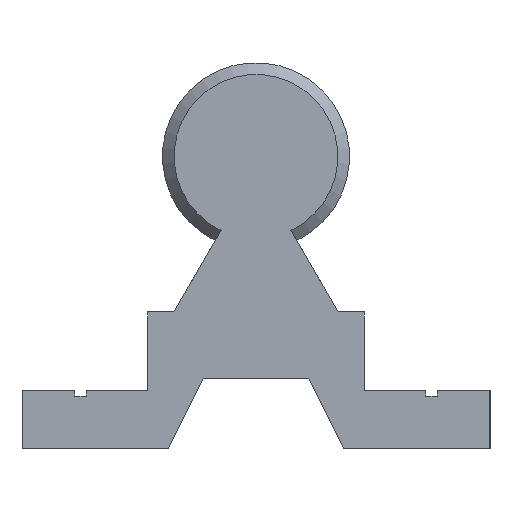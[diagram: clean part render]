
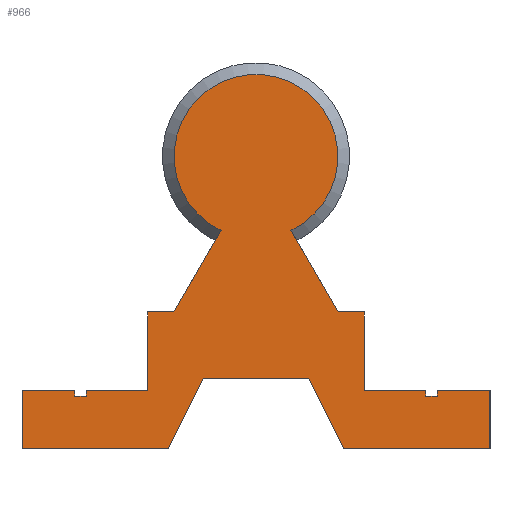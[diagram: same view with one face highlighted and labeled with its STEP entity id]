
A CAD part, left-side view. The second image highlights one B-rep face of the part: STEP entity #966.
In plain terms, the highlighted planar face has unit normal (-1, 0, 0).
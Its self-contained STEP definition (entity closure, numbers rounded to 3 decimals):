
#24=LINE('',#1421,#114);
#25=LINE('',#1423,#115);
#26=LINE('',#1425,#116);
#27=LINE('',#1427,#117);
#28=LINE('',#1429,#118);
#29=LINE('',#1431,#119);
#30=LINE('',#1433,#120);
#31=LINE('',#1435,#121);
#32=LINE('',#1437,#122);
#33=LINE('',#1439,#123);
#34=LINE('',#1441,#124);
#35=LINE('',#1443,#125);
#36=LINE('',#1445,#126);
#37=LINE('',#1447,#127);
#38=LINE('',#1449,#128);
#39=LINE('',#1451,#129);
#40=LINE('',#1453,#130);
#41=LINE('',#1455,#131);
#42=LINE('',#1457,#132);
#43=LINE('',#1459,#133);
#44=LINE('',#1461,#134);
#45=LINE('',#1463,#135);
#46=LINE('',#1464,#136);
#114=VECTOR('',#1139,10.);
#115=VECTOR('',#1140,10.);
#116=VECTOR('',#1141,10.);
#117=VECTOR('',#1142,10.);
#118=VECTOR('',#1143,10.);
#119=VECTOR('',#1144,10.);
#120=VECTOR('',#1145,10.);
#121=VECTOR('',#1146,10.);
#122=VECTOR('',#1147,10.);
#123=VECTOR('',#1148,10.);
#124=VECTOR('',#1149,10.);
#125=VECTOR('',#1150,10.);
#126=VECTOR('',#1151,10.);
#127=VECTOR('',#1152,10.);
#128=VECTOR('',#1153,10.);
#129=VECTOR('',#1154,10.);
#130=VECTOR('',#1155,10.);
#131=VECTOR('',#1156,10.);
#132=VECTOR('',#1157,10.);
#133=VECTOR('',#1158,10.);
#134=VECTOR('',#1159,10.);
#135=VECTOR('',#1160,10.);
#136=VECTOR('',#1161,10.);
#204=PLANE('',#1040);
#242=FACE_OUTER_BOUND('',#294,.T.);
#294=EDGE_LOOP('',(#659,#660,#661,#662,#663,#664,#665,#666,#667,#668,#669,
#670,#671,#672,#673,#674,#675,#676,#677,#678,#679,#680,#681,#682));
#349=CIRCLE('',#1038,7.);
#410=VERTEX_POINT('',#1408);
#411=VERTEX_POINT('',#1412);
#413=VERTEX_POINT('',#1420);
#414=VERTEX_POINT('',#1422);
#415=VERTEX_POINT('',#1424);
#416=VERTEX_POINT('',#1426);
#417=VERTEX_POINT('',#1428);
#418=VERTEX_POINT('',#1430);
#419=VERTEX_POINT('',#1432);
#420=VERTEX_POINT('',#1434);
#421=VERTEX_POINT('',#1436);
#422=VERTEX_POINT('',#1438);
#423=VERTEX_POINT('',#1440);
#424=VERTEX_POINT('',#1442);
#425=VERTEX_POINT('',#1444);
#426=VERTEX_POINT('',#1446);
#427=VERTEX_POINT('',#1448);
#428=VERTEX_POINT('',#1450);
#429=VERTEX_POINT('',#1452);
#430=VERTEX_POINT('',#1454);
#431=VERTEX_POINT('',#1456);
#432=VERTEX_POINT('',#1458);
#433=VERTEX_POINT('',#1460);
#434=VERTEX_POINT('',#1462);
#506=EDGE_CURVE('',#410,#411,#349,.T.);
#509=EDGE_CURVE('',#411,#413,#24,.T.);
#510=EDGE_CURVE('',#414,#410,#25,.T.);
#511=EDGE_CURVE('',#415,#414,#26,.T.);
#512=EDGE_CURVE('',#416,#415,#27,.T.);
#513=EDGE_CURVE('',#417,#416,#28,.T.);
#514=EDGE_CURVE('',#418,#417,#29,.T.);
#515=EDGE_CURVE('',#419,#418,#30,.T.);
#516=EDGE_CURVE('',#420,#419,#31,.T.);
#517=EDGE_CURVE('',#421,#420,#32,.T.);
#518=EDGE_CURVE('',#422,#421,#33,.T.);
#519=EDGE_CURVE('',#423,#422,#34,.T.);
#520=EDGE_CURVE('',#424,#423,#35,.T.);
#521=EDGE_CURVE('',#425,#424,#36,.T.);
#522=EDGE_CURVE('',#426,#425,#37,.T.);
#523=EDGE_CURVE('',#427,#426,#38,.T.);
#524=EDGE_CURVE('',#428,#427,#39,.T.);
#525=EDGE_CURVE('',#429,#428,#40,.T.);
#526=EDGE_CURVE('',#430,#429,#41,.T.);
#527=EDGE_CURVE('',#431,#430,#42,.T.);
#528=EDGE_CURVE('',#432,#431,#43,.T.);
#529=EDGE_CURVE('',#433,#432,#44,.T.);
#530=EDGE_CURVE('',#434,#433,#45,.T.);
#531=EDGE_CURVE('',#413,#434,#46,.T.);
#659=ORIENTED_EDGE('',*,*,#509,.F.);
#660=ORIENTED_EDGE('',*,*,#506,.F.);
#661=ORIENTED_EDGE('',*,*,#510,.F.);
#662=ORIENTED_EDGE('',*,*,#511,.F.);
#663=ORIENTED_EDGE('',*,*,#512,.F.);
#664=ORIENTED_EDGE('',*,*,#513,.F.);
#665=ORIENTED_EDGE('',*,*,#514,.F.);
#666=ORIENTED_EDGE('',*,*,#515,.F.);
#667=ORIENTED_EDGE('',*,*,#516,.F.);
#668=ORIENTED_EDGE('',*,*,#517,.F.);
#669=ORIENTED_EDGE('',*,*,#518,.F.);
#670=ORIENTED_EDGE('',*,*,#519,.F.);
#671=ORIENTED_EDGE('',*,*,#520,.F.);
#672=ORIENTED_EDGE('',*,*,#521,.F.);
#673=ORIENTED_EDGE('',*,*,#522,.F.);
#674=ORIENTED_EDGE('',*,*,#523,.F.);
#675=ORIENTED_EDGE('',*,*,#524,.F.);
#676=ORIENTED_EDGE('',*,*,#525,.F.);
#677=ORIENTED_EDGE('',*,*,#526,.F.);
#678=ORIENTED_EDGE('',*,*,#527,.F.);
#679=ORIENTED_EDGE('',*,*,#528,.F.);
#680=ORIENTED_EDGE('',*,*,#529,.F.);
#681=ORIENTED_EDGE('',*,*,#530,.F.);
#682=ORIENTED_EDGE('',*,*,#531,.F.);
#966=ADVANCED_FACE('',(#242),#204,.F.);
#1038=AXIS2_PLACEMENT_3D('',#1413,#1133,#1134);
#1040=AXIS2_PLACEMENT_3D('',#1419,#1137,#1138);
#1133=DIRECTION('center_axis',(1.,0.,0.));
#1134=DIRECTION('ref_axis',(0.,1.,0.));
#1137=DIRECTION('center_axis',(1.,0.,0.));
#1138=DIRECTION('ref_axis',(0.,0.,-1.));
#1139=DIRECTION('',(0.,-0.5,-0.866));
#1140=DIRECTION('',(0.,-0.5,0.866));
#1141=DIRECTION('',(0.,-1.,0.));
#1142=DIRECTION('',(0.,0.,1.));
#1143=DIRECTION('',(0.,-1.,0.));
#1144=DIRECTION('',(0.,0.,1.));
#1145=DIRECTION('',(0.,-1.,0.));
#1146=DIRECTION('',(0.,0.,-1.));
#1147=DIRECTION('',(0.,-1.,0.));
#1148=DIRECTION('',(0.,0.,1.));
#1149=DIRECTION('',(0.,1.,0.));
#1150=DIRECTION('',(0.,0.447,-0.894));
#1151=DIRECTION('',(0.,1.,0.));
#1152=DIRECTION('',(0.,0.447,0.894));
#1153=DIRECTION('',(0.,1.,0.));
#1154=DIRECTION('',(0.,0.,-1.));
#1155=DIRECTION('',(0.,-1.,0.));
#1156=DIRECTION('',(0.,0.,1.));
#1157=DIRECTION('',(0.,-1.,0.));
#1158=DIRECTION('',(0.,0.,-1.));
#1159=DIRECTION('',(0.,-1.,0.));
#1160=DIRECTION('',(0.,0.,-1.));
#1161=DIRECTION('',(0.,-1.,0.));
#1408=CARTESIAN_POINT('',(0.,2.986,18.669));
#1412=CARTESIAN_POINT('',(0.,-2.986,18.669));
#1413=CARTESIAN_POINT('Origin',(0.,0.,25.));
#1419=CARTESIAN_POINT('Origin',(0.,0.,25.));
#1420=CARTESIAN_POINT('',(0.,-7.009,11.7));
#1421=CARTESIAN_POINT('',(0.,-1.492,21.255));
#1422=CARTESIAN_POINT('',(0.,7.009,11.7));
#1423=CARTESIAN_POINT('',(0.,3.253,18.205));
#1424=CARTESIAN_POINT('',(0.,9.25,11.7));
#1425=CARTESIAN_POINT('',(0.,9.25,11.7));
#1426=CARTESIAN_POINT('',(0.,9.25,5.));
#1427=CARTESIAN_POINT('',(0.,9.25,5.));
#1428=CARTESIAN_POINT('',(0.,14.5,5.));
#1429=CARTESIAN_POINT('',(0.,14.5,5.));
#1430=CARTESIAN_POINT('',(0.,14.5,4.5));
#1431=CARTESIAN_POINT('',(0.,14.5,4.5));
#1432=CARTESIAN_POINT('',(0.,15.5,4.5));
#1433=CARTESIAN_POINT('',(0.,15.5,4.5));
#1434=CARTESIAN_POINT('',(0.,15.5,5.));
#1435=CARTESIAN_POINT('',(0.,15.5,5.));
#1436=CARTESIAN_POINT('',(0.,20.,5.));
#1437=CARTESIAN_POINT('',(0.,20.,5.));
#1438=CARTESIAN_POINT('',(0.,20.,0.));
#1439=CARTESIAN_POINT('',(0.,20.,0.));
#1440=CARTESIAN_POINT('',(0.,7.5,0.));
#1441=CARTESIAN_POINT('',(0.,7.5,0.));
#1442=CARTESIAN_POINT('',(0.,4.5,6.));
#1443=CARTESIAN_POINT('',(0.,4.5,6.));
#1444=CARTESIAN_POINT('',(0.,-4.5,6.));
#1445=CARTESIAN_POINT('',(0.,-4.5,6.));
#1446=CARTESIAN_POINT('',(0.,-7.5,0.));
#1447=CARTESIAN_POINT('',(0.,-7.5,0.));
#1448=CARTESIAN_POINT('',(0.,-20.,0.));
#1449=CARTESIAN_POINT('',(0.,-20.,0.));
#1450=CARTESIAN_POINT('',(0.,-20.,5.));
#1451=CARTESIAN_POINT('',(0.,-20.,5.));
#1452=CARTESIAN_POINT('',(0.,-15.5,5.));
#1453=CARTESIAN_POINT('',(0.,-15.5,5.));
#1454=CARTESIAN_POINT('',(0.,-15.5,4.5));
#1455=CARTESIAN_POINT('',(0.,-15.5,4.5));
#1456=CARTESIAN_POINT('',(0.,-14.5,4.5));
#1457=CARTESIAN_POINT('',(0.,-14.5,4.5));
#1458=CARTESIAN_POINT('',(0.,-14.5,5.));
#1459=CARTESIAN_POINT('',(0.,-14.5,5.));
#1460=CARTESIAN_POINT('',(0.,-9.25,5.));
#1461=CARTESIAN_POINT('',(0.,-9.25,5.));
#1462=CARTESIAN_POINT('',(0.,-9.25,11.7));
#1463=CARTESIAN_POINT('',(0.,-9.25,11.7));
#1464=CARTESIAN_POINT('',(0.,-7.009,11.7));
